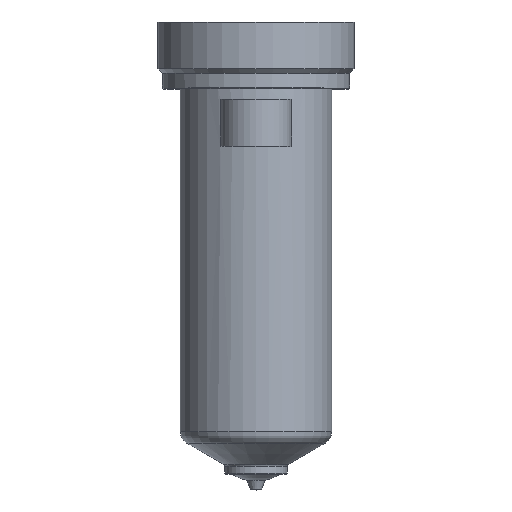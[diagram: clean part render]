
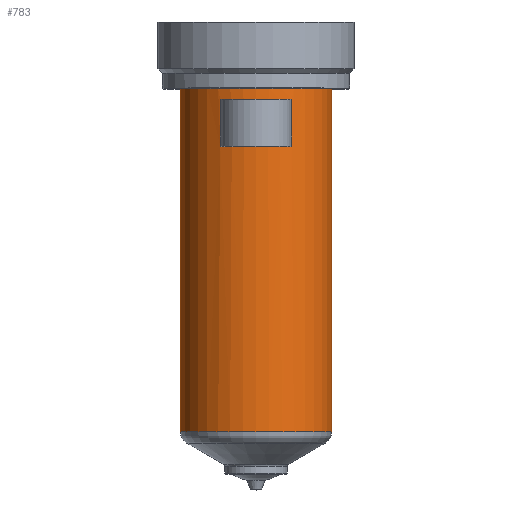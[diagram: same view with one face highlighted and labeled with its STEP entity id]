
A CAD part, top view. The second image highlights one B-rep face of the part: STEP entity #783.
In plain terms, the highlighted cylindrical face has radius 17 mm (diameter 34 mm), a partial arc.
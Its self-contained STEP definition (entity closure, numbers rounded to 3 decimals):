
#191=DIRECTION('',(0.,-1.,0.));
#192=VECTOR('',#191,76.906);
#193=CARTESIAN_POINT('',(17.,0.,0.));
#194=LINE('',#193,#192);
#195=CARTESIAN_POINT('',(0.,-76.906,0.));
#196=DIRECTION('',(0.,1.,0.));
#197=DIRECTION('',(-1.,0.,0.));
#198=AXIS2_PLACEMENT_3D('',#195,#196,#197);
#200=DIRECTION('',(0.,1.,0.));
#201=VECTOR('',#200,76.906);
#202=CARTESIAN_POINT('',(-17.,-76.906,0.));
#203=LINE('',#202,#201);
#204=CARTESIAN_POINT('',(0.,0.,0.));
#205=DIRECTION('',(0.,1.,0.));
#206=DIRECTION('',(-1.,0.,0.));
#207=AXIS2_PLACEMENT_3D('',#204,#205,#206);
#353=DIRECTION('',(0.,1.,0.));
#354=VECTOR('',#353,10.5);
#355=CARTESIAN_POINT('',(-8.,-13.,15.));
#356=LINE('',#355,#354);
#357=CARTESIAN_POINT('',(0.,-13.,0.));
#358=DIRECTION('',(0.,1.,0.));
#359=DIRECTION('',(-0.471,0.,0.882));
#360=AXIS2_PLACEMENT_3D('',#357,#358,#359);
#383=CARTESIAN_POINT('',(0.,-2.5,0.));
#384=DIRECTION('',(0.,-1.,0.));
#385=DIRECTION('',(0.471,0.,0.882));
#386=AXIS2_PLACEMENT_3D('',#383,#384,#385);
#401=DIRECTION('',(0.,1.,0.));
#402=VECTOR('',#401,10.5);
#403=CARTESIAN_POINT('',(8.,-13.,15.));
#404=LINE('',#403,#402);
#462=CARTESIAN_POINT('',(-17.,0.,0.));
#463=CARTESIAN_POINT('',(17.,0.,0.));
#464=VERTEX_POINT('',#462);
#465=VERTEX_POINT('',#463);
#474=CARTESIAN_POINT('',(-8.,-2.5,15.));
#475=VERTEX_POINT('',#474);
#476=CARTESIAN_POINT('',(8.,-2.5,15.));
#477=VERTEX_POINT('',#476);
#514=CARTESIAN_POINT('',(17.,-76.906,0.));
#515=VERTEX_POINT('',#514);
#524=CARTESIAN_POINT('',(-17.,-76.906,0.));
#525=VERTEX_POINT('',#524);
#542=CARTESIAN_POINT('',(-8.,-13.,15.));
#543=CARTESIAN_POINT('',(8.,-13.,15.));
#544=VERTEX_POINT('',#542);
#545=VERTEX_POINT('',#543);
#761=CARTESIAN_POINT('',(0.,16.4,0.));
#762=DIRECTION('',(0.,-1.,0.));
#763=DIRECTION('',(-1.,0.,0.));
#764=AXIS2_PLACEMENT_3D('',#761,#762,#763);
#765=CYLINDRICAL_SURFACE('',#764,17.);
#766=ORIENTED_EDGE('',*,*,#755,.T.);
#768=ORIENTED_EDGE('',*,*,#767,.F.);
#769=ORIENTED_EDGE('',*,*,#751,.T.);
#770=ORIENTED_EDGE('',*,*,#741,.T.);
#771=EDGE_LOOP('',(#766,#768,#769,#770));
#772=FACE_OUTER_BOUND('',#771,.F.);
#774=ORIENTED_EDGE('',*,*,#773,.F.);
#776=ORIENTED_EDGE('',*,*,#775,.T.);
#778=ORIENTED_EDGE('',*,*,#777,.T.);
#780=ORIENTED_EDGE('',*,*,#779,.T.);
#781=EDGE_LOOP('',(#774,#776,#778,#780));
#782=FACE_BOUND('',#781,.F.);
#783=ADVANCED_FACE('',(#772,#782),#765,.T.);
#199=CIRCLE('',#198,17.);
#208=CIRCLE('',#207,17.);
#361=CIRCLE('',#360,17.);
#387=CIRCLE('',#386,17.);
#741=EDGE_CURVE('',#464,#465,#208,.T.);
#751=EDGE_CURVE('',#525,#464,#203,.T.);
#755=EDGE_CURVE('',#465,#515,#194,.T.);
#767=EDGE_CURVE('',#525,#515,#199,.T.);
#773=EDGE_CURVE('',#544,#475,#356,.T.);
#775=EDGE_CURVE('',#544,#545,#361,.T.);
#777=EDGE_CURVE('',#545,#477,#404,.T.);
#779=EDGE_CURVE('',#477,#475,#387,.T.);
